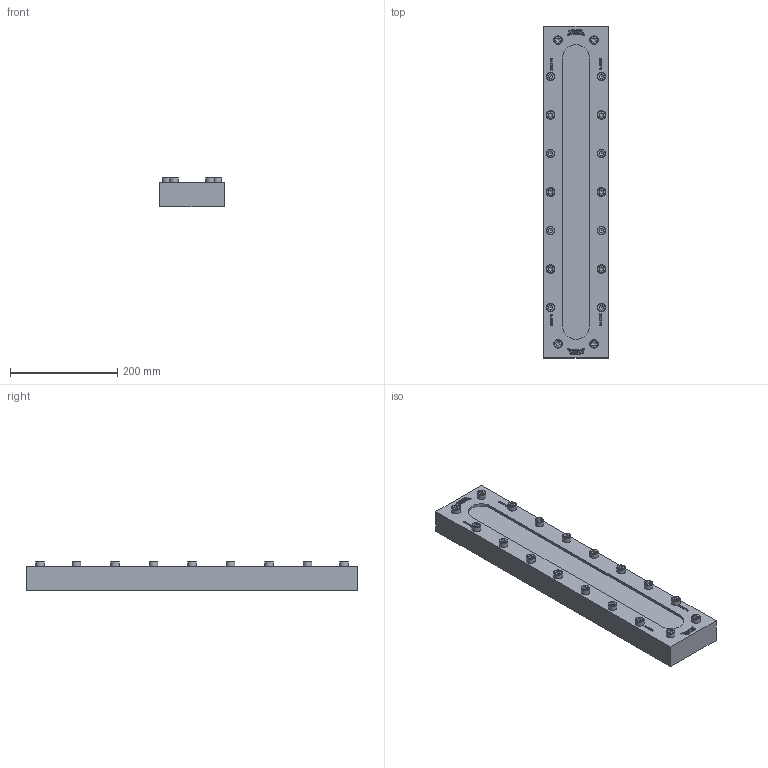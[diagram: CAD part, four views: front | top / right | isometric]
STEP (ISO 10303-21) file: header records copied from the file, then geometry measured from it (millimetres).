
FILE_DESCRIPTION(/* description */ (''),/* implementation_level */ '2;1');
FILE_NAME(/* name */ 'W:\Konstruktion_ACI\334\_Zeichnungen\STEP\ACI-334-620-3.stp',/* time_stamp */ '2022-03-02T16:54:44+01:00',/* author */ ('Travnicek'),/* organization */ ('ACI Industriearmaturen'),/* preprocessor_version */ 'ST-DEVELOPER v16.1',/* originating_system */ 'Autodesk Inventor 2016',/* authorisation */ '');
FILE_SCHEMA (('AUTOMOTIVE_DESIGN { 1 0 10303 214 3 1 1 }'));
Length unit declared in the file: centimetre
Products named in the file (1): 334
Bounding box: 120 x 620 x 54.96 mm (x, y, z)
Volume: 2733122.2 mm3; surface area: 255766.4 mm2
Topology: 1 solids, 1 shells, 1398 faces, 3828 edges, 2546 vertices
Faces by surface type: plane 968, bspline 372, cylinder 22, torus 18, cone 18
Full cylindrical faces by diameter (mm): 16 x18
Entity records: 46234 total; most frequent: CARTESIAN_POINT 12699, ORIENTED_EDGE 7476, DIRECTION 5002, EDGE_CURVE 3738, LINE 2824, VECTOR 2824, VERTEX_POINT 2510, EDGE_LOOP 1566
